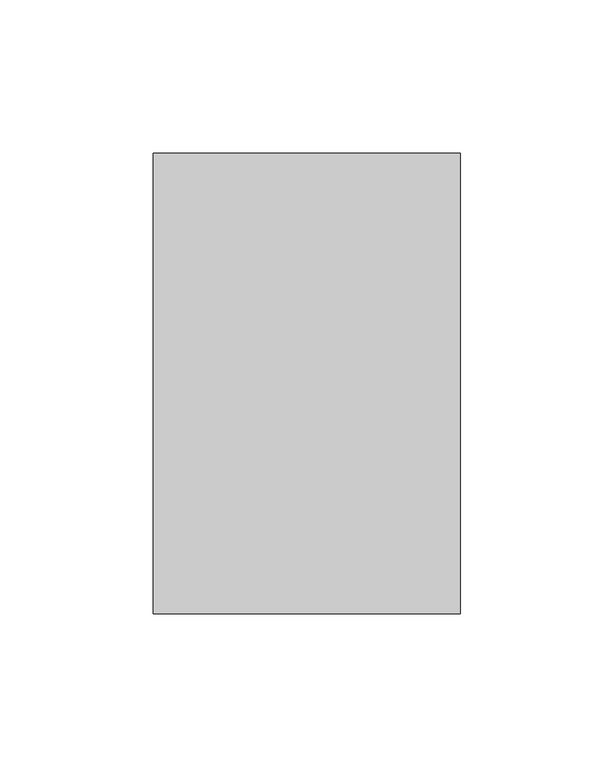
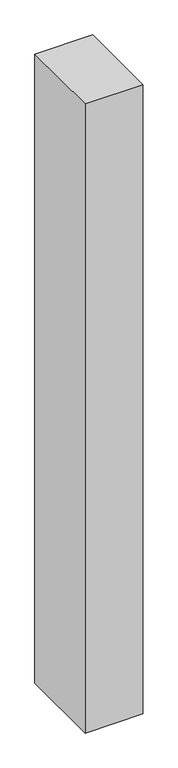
"""IFC4 building model written with IfcOpenShell, lengths in millimetres: member geometry, 矩形竖梃 : 教学楼 – 矩形竖梃 – 100x150mm."""

from ifc_helpers import new_model, si_unit, frame, origin, place, context, project, spatial, polyline, outline, extrude, source, transform, mapped, element, save


def member_ffafc35e(model_context):
    return source(origin(), model_context, "Body", "SweptSolid", [
        extrude(outline(polyline([(0.0, 75.0), (0.0, -75.0), (-100.0, -75.0), (-100.0, 75.0), (0.0, 75.0)])), frame((0.0, 0.0, -1150.0), z_axis=(0.0, 0.0, 1.0), x_axis=(1.0, 0.0, 0.0)), (0.0, 0.0, 1.0), 1150.0),
    ])


if __name__ == "__main__":
    model = new_model("IFC4")
    model_context = context("Model", 3, world=origin())
    ifc_project = project(units=[si_unit("LENGTHUNIT", "METRE", prefix="MILLI")], contexts=[model_context])
    site = spatial("IfcSite", under=ifc_project)
    building = spatial("IfcBuilding", under=site)
    placement = place(None, origin())
    member_shape = member_ffafc35e(model_context)
    element("IfcMember", 1, ObjectType="矩形竖梃 : 教学楼 – 矩形竖梃 – 100x150mm", at=placement, inside=building, context=model_context, shape_type="MappedRepresentation", body=[
        mapped(member_shape, transform((0.0, 0.0, 0.0), x_axis=(1.0, 0.0, 0.0), y_axis=(0.0, 1.0, 0.0), z_axis=(0.0, 0.0, 1.0))),
    ])
    save(model, "model.ifc")
